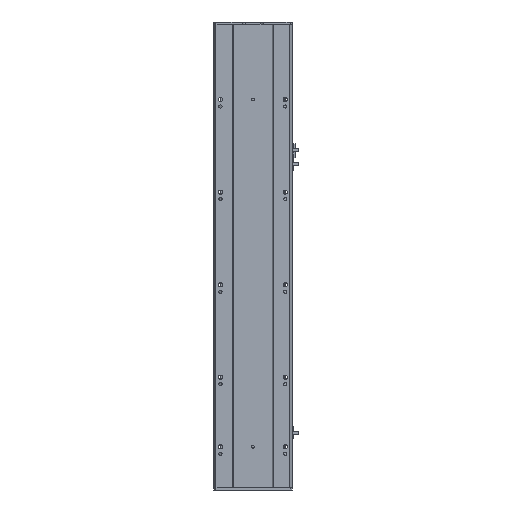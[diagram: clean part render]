
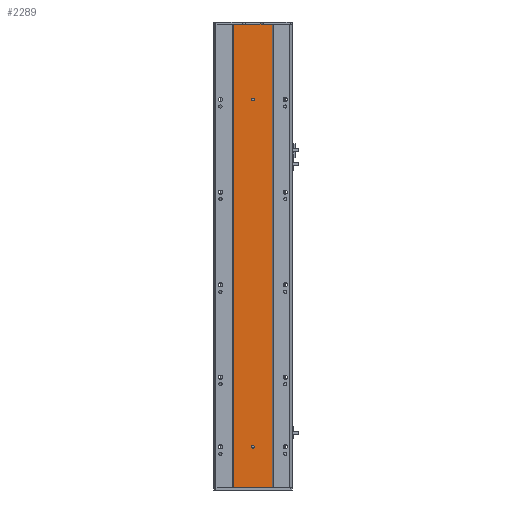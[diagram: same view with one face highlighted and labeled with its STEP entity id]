
A CAD part, front view. The second image highlights one B-rep face of the part: STEP entity #2289.
In plain terms, the highlighted planar face has unit normal (0, -1, 0).
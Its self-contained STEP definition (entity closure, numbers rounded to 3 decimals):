
#68 = CARTESIAN_POINT ( 'NONE',  ( 126.916, 2.57, 0. ) ) ;
#169 = CARTESIAN_POINT ( 'NONE',  ( 85., 2.57, 838.5 ) ) ;
#387 = ORIENTED_EDGE ( 'NONE', *, *, #12710, .F. ) ;
#533 = CARTESIAN_POINT ( 'NONE',  ( 42.916, 2.57, 0. ) ) ;
#643 = VERTEX_POINT ( 'NONE', #19887 ) ;
#953 = DIRECTION ( 'NONE',  ( 0., 0., 1. ) ) ;
#1118 = ORIENTED_EDGE ( 'NONE', *, *, #16709, .T. ) ;
#2055 = CARTESIAN_POINT ( 'NONE',  ( 42.916, 2.57, 1001. ) ) ;
#2078 = DIRECTION ( 'NONE',  ( 0., 0., 1. ) ) ;
#2289 = ADVANCED_FACE ( 'NONE', ( #3146, #8234, #23597 ), #12041, .F. ) ;
#2362 = CARTESIAN_POINT ( 'NONE',  ( 42.916, 2.57, 0. ) ) ;
#2464 = DIRECTION ( 'NONE',  ( 0., 0., 1. ) ) ;
#3146 = FACE_BOUND ( 'NONE', #12475, .T. ) ;
#3213 = VECTOR ( 'NONE', #13550, 1000. ) ;
#4045 = VERTEX_POINT ( 'NONE', #7398 ) ;
#4457 = AXIS2_PLACEMENT_3D ( 'NONE', #533, #8137, #2464 ) ;
#4547 = VERTEX_POINT ( 'NONE', #5199 ) ;
#4883 = DIRECTION ( 'NONE',  ( 0., 1., 0. ) ) ;
#4956 = DIRECTION ( 'NONE',  ( -1., 0., 0. ) ) ;
#5199 = CARTESIAN_POINT ( 'NONE',  ( 42.916, 2.57, 0. ) ) ;
#5595 = AXIS2_PLACEMENT_3D ( 'NONE', #7757, #21258, #9721 ) ;
#6697 = AXIS2_PLACEMENT_3D ( 'NONE', #20604, #9073, #22540 ) ;
#7398 = CARTESIAN_POINT ( 'NONE',  ( 126.916, 2.57, 1001. ) ) ;
#7519 = AXIS2_PLACEMENT_3D ( 'NONE', #16436, #4883, #18341 ) ;
#7528 = ORIENTED_EDGE ( 'NONE', *, *, #7672, .T. ) ;
#7568 = VECTOR ( 'NONE', #4956, 1000. ) ;
#7609 = EDGE_LOOP ( 'NONE', ( #23890, #387, #13277, #1118 ) ) ;
#7672 = EDGE_CURVE ( 'NONE', #12365, #8232, #10565, .T. ) ;
#7757 = CARTESIAN_POINT ( 'NONE',  ( 85., 2.57, 838.5 ) ) ;
#7961 = LINE ( 'NONE', #12386, #22741 ) ;
#8137 = DIRECTION ( 'NONE',  ( 0., 1., 0. ) ) ;
#8175 = LINE ( 'NONE', #14533, #7568 ) ;
#8232 = VERTEX_POINT ( 'NONE', #17353 ) ;
#8234 = FACE_BOUND ( 'NONE', #10677, .T. ) ;
#9073 = DIRECTION ( 'NONE',  ( 0., 1., 0. ) ) ;
#9721 = DIRECTION ( 'NONE',  ( 0., 0., 1. ) ) ;
#9920 = CARTESIAN_POINT ( 'NONE',  ( 42.916, 2.57, 1001. ) ) ;
#10353 = VECTOR ( 'NONE', #19746, 1000. ) ;
#10565 = CIRCLE ( 'NONE', #11640, 3. ) ;
#10677 = EDGE_LOOP ( 'NONE', ( #21272, #7528 ) ) ;
#10997 = VERTEX_POINT ( 'NONE', #68 ) ;
#11640 = AXIS2_PLACEMENT_3D ( 'NONE', #169, #13576, #2078 ) ;
#12041 = PLANE ( 'NONE',  #4457 ) ;
#12049 = CIRCLE ( 'NONE', #6697, 3. ) ;
#12252 = EDGE_CURVE ( 'NONE', #20166, #643, #20598, .T. ) ;
#12365 = VERTEX_POINT ( 'NONE', #14801 ) ;
#12386 = CARTESIAN_POINT ( 'NONE',  ( 126.916, 2.57, 0. ) ) ;
#12475 = EDGE_LOOP ( 'NONE', ( #15411, #17221 ) ) ;
#12710 = EDGE_CURVE ( 'NONE', #4547, #13370, #16083, .T. ) ;
#13277 = ORIENTED_EDGE ( 'NONE', *, *, #13613, .F. ) ;
#13370 = VERTEX_POINT ( 'NONE', #9920 ) ;
#13431 = LINE ( 'NONE', #2055, #3213 ) ;
#13550 = DIRECTION ( 'NONE',  ( -1., 0., 0. ) ) ;
#13576 = DIRECTION ( 'NONE',  ( 0., 1., 0. ) ) ;
#13613 = EDGE_CURVE ( 'NONE', #10997, #4547, #8175, .T. ) ;
#14533 = CARTESIAN_POINT ( 'NONE',  ( 42.916, 2.57, 0. ) ) ;
#14801 = CARTESIAN_POINT ( 'NONE',  ( 85., 2.57, 841.5 ) ) ;
#15110 = CIRCLE ( 'NONE', #5595, 3. ) ;
#15255 = EDGE_CURVE ( 'NONE', #4045, #13370, #13431, .T. ) ;
#15411 = ORIENTED_EDGE ( 'NONE', *, *, #12252, .T. ) ;
#16083 = LINE ( 'NONE', #2362, #10353 ) ;
#16436 = CARTESIAN_POINT ( 'NONE',  ( 85., 2.57, 88.5 ) ) ;
#16709 = EDGE_CURVE ( 'NONE', #10997, #4045, #7961, .T. ) ;
#17221 = ORIENTED_EDGE ( 'NONE', *, *, #19585, .T. ) ;
#17353 = CARTESIAN_POINT ( 'NONE',  ( 85., 2.57, 835.5 ) ) ;
#18341 = DIRECTION ( 'NONE',  ( 0., 0., 1. ) ) ;
#19585 = EDGE_CURVE ( 'NONE', #643, #20166, #12049, .T. ) ;
#19746 = DIRECTION ( 'NONE',  ( 0., 0., 1. ) ) ;
#19887 = CARTESIAN_POINT ( 'NONE',  ( 85., 2.57, 91.5 ) ) ;
#20166 = VERTEX_POINT ( 'NONE', #20572 ) ;
#20572 = CARTESIAN_POINT ( 'NONE',  ( 85., 2.57, 85.5 ) ) ;
#20598 = CIRCLE ( 'NONE', #7519, 3. ) ;
#20604 = CARTESIAN_POINT ( 'NONE',  ( 85., 2.57, 88.5 ) ) ;
#21258 = DIRECTION ( 'NONE',  ( 0., 1., 0. ) ) ;
#21272 = ORIENTED_EDGE ( 'NONE', *, *, #21805, .T. ) ;
#21805 = EDGE_CURVE ( 'NONE', #8232, #12365, #15110, .T. ) ;
#22540 = DIRECTION ( 'NONE',  ( 0., 0., 1. ) ) ;
#22741 = VECTOR ( 'NONE', #953, 1000. ) ;
#23597 = FACE_OUTER_BOUND ( 'NONE', #7609, .T. ) ;
#23890 = ORIENTED_EDGE ( 'NONE', *, *, #15255, .T. ) ;
